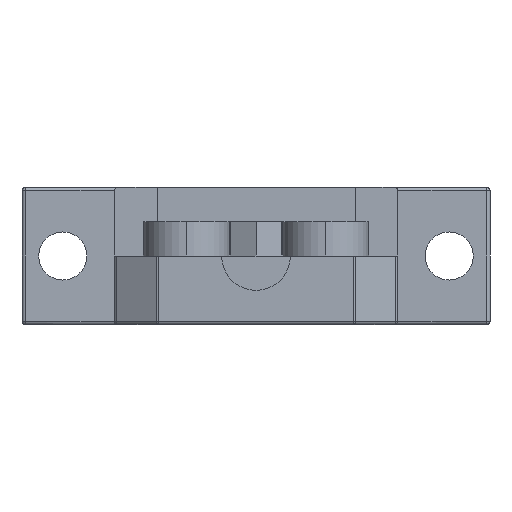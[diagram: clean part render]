
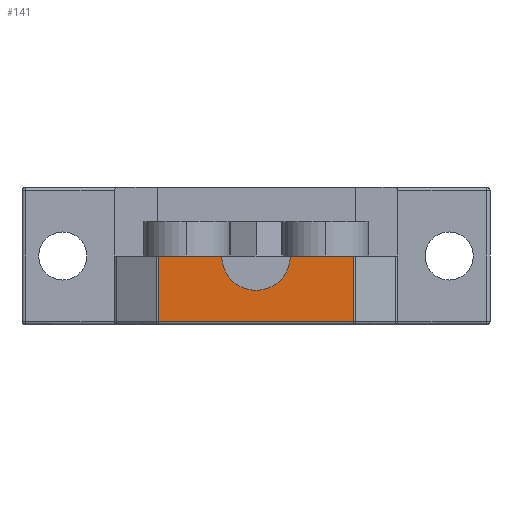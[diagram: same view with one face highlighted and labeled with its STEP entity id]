
A CAD part, left-side view. The second image highlights one B-rep face of the part: STEP entity #141.
In plain terms, the highlighted planar face has unit normal (-1, 0, 0).
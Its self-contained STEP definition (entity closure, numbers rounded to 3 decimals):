
#126 = CARTESIAN_POINT ( 'NONE',  ( -13., 5.695, 0. ) ) ;
#141 = ADVANCED_FACE ( 'NONE', ( #1484 ), #5501, .F. ) ;
#292 = DIRECTION ( 'NONE',  ( 0., 1., 0. ) ) ;
#380 = ORIENTED_EDGE ( 'NONE', *, *, #2720, .F. ) ;
#463 = CARTESIAN_POINT ( 'NONE',  ( -13., 0., 0. ) ) ;
#516 = EDGE_CURVE ( 'NONE', #5289, #3659, #1182, .T. ) ;
#522 = VERTEX_POINT ( 'NONE', #5148 ) ;
#683 = CARTESIAN_POINT ( 'NONE',  ( -13., -5.75, -3.8 ) ) ;
#752 = DIRECTION ( 'NONE',  ( 1., 0., 0. ) ) ;
#1182 = LINE ( 'NONE', #4660, #2923 ) ;
#1331 = CARTESIAN_POINT ( 'NONE',  ( -13., -5.695, -3.8 ) ) ;
#1423 = AXIS2_PLACEMENT_3D ( 'NONE', #463, #4327, #5287 ) ;
#1475 = CARTESIAN_POINT ( 'NONE',  ( -13., 8.25, 0. ) ) ;
#1484 = FACE_OUTER_BOUND ( 'NONE', #4410, .T. ) ;
#1502 = DIRECTION ( 'NONE',  ( 0., -1., 0. ) ) ;
#1649 = ORIENTED_EDGE ( 'NONE', *, *, #3231, .T. ) ;
#1688 = LINE ( 'NONE', #4291, #2994 ) ;
#1997 = VERTEX_POINT ( 'NONE', #1331 ) ;
#2011 = DIRECTION ( 'NONE',  ( 0., -1., 0. ) ) ;
#2095 = EDGE_CURVE ( 'NONE', #1997, #3659, #4759, .T. ) ;
#2279 = AXIS2_PLACEMENT_3D ( 'NONE', #4613, #752, #292 ) ;
#2590 = CARTESIAN_POINT ( 'NONE',  ( -13., -5.695, 4. ) ) ;
#2720 = EDGE_CURVE ( 'NONE', #4009, #5289, #5456, .T. ) ;
#2740 = VECTOR ( 'NONE', #4880, 1000. ) ;
#2923 = VECTOR ( 'NONE', #2011, 1000. ) ;
#2994 = VECTOR ( 'NONE', #3780, 1000. ) ;
#3152 = EDGE_CURVE ( 'NONE', #4024, #4009, #3614, .T. ) ;
#3231 = EDGE_CURVE ( 'NONE', #522, #1997, #4576, .T. ) ;
#3267 = VECTOR ( 'NONE', #4095, 1000. ) ;
#3398 = CARTESIAN_POINT ( 'NONE',  ( -13., -2., 0. ) ) ;
#3438 = VECTOR ( 'NONE', #1502, 1000. ) ;
#3496 = ORIENTED_EDGE ( 'NONE', *, *, #3152, .F. ) ;
#3614 = LINE ( 'NONE', #1475, #3267 ) ;
#3659 = VERTEX_POINT ( 'NONE', #4118 ) ;
#3780 = DIRECTION ( 'NONE',  ( 0., 0., -1. ) ) ;
#4009 = VERTEX_POINT ( 'NONE', #4027 ) ;
#4024 = VERTEX_POINT ( 'NONE', #126 ) ;
#4027 = CARTESIAN_POINT ( 'NONE',  ( -13., 2., 0. ) ) ;
#4095 = DIRECTION ( 'NONE',  ( 0., -1., 0. ) ) ;
#4118 = CARTESIAN_POINT ( 'NONE',  ( -13., -5.695, 0. ) ) ;
#4291 = CARTESIAN_POINT ( 'NONE',  ( -13., 5.695, 4. ) ) ;
#4316 = ORIENTED_EDGE ( 'NONE', *, *, #2095, .T. ) ;
#4318 = EDGE_CURVE ( 'NONE', #4024, #522, #1688, .T. ) ;
#4327 = DIRECTION ( 'NONE',  ( -1., 0., 0. ) ) ;
#4410 = EDGE_LOOP ( 'NONE', ( #5380, #380, #3496, #4854, #1649, #4316 ) ) ;
#4576 = LINE ( 'NONE', #683, #3438 ) ;
#4613 = CARTESIAN_POINT ( 'NONE',  ( -13., 8.25, 4. ) ) ;
#4660 = CARTESIAN_POINT ( 'NONE',  ( -13., 8.25, 0. ) ) ;
#4759 = LINE ( 'NONE', #2590, #2740 ) ;
#4854 = ORIENTED_EDGE ( 'NONE', *, *, #4318, .T. ) ;
#4880 = DIRECTION ( 'NONE',  ( 0., 0., 1. ) ) ;
#5148 = CARTESIAN_POINT ( 'NONE',  ( -13., 5.695, -3.8 ) ) ;
#5287 = DIRECTION ( 'NONE',  ( 0., -1., 0. ) ) ;
#5289 = VERTEX_POINT ( 'NONE', #3398 ) ;
#5380 = ORIENTED_EDGE ( 'NONE', *, *, #516, .F. ) ;
#5456 = CIRCLE ( 'NONE', #1423, 2. ) ;
#5501 = PLANE ( 'NONE',  #2279 ) ;
